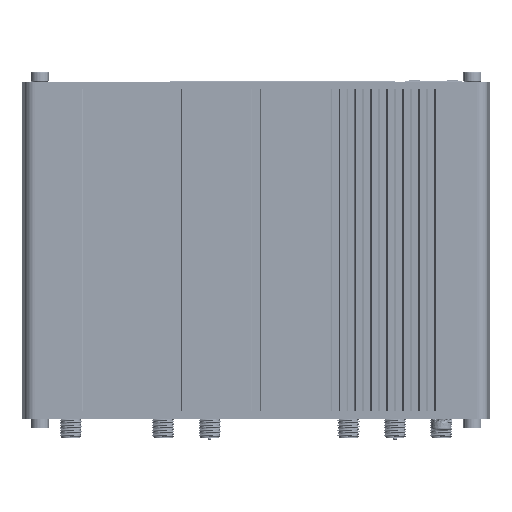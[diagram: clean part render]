
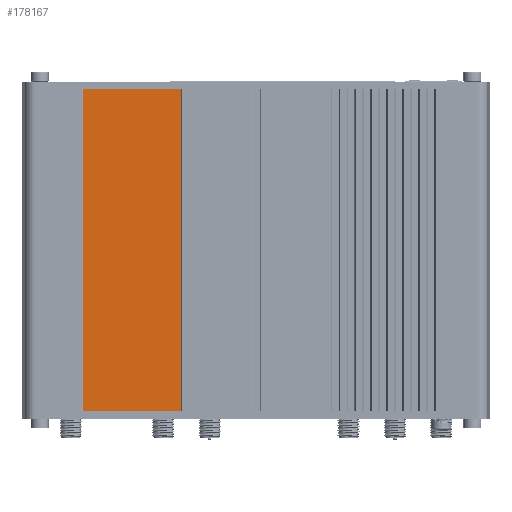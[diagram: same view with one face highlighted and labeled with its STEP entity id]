
A CAD part, front view. The second image highlights one B-rep face of the part: STEP entity #178167.
In plain terms, the highlighted planar face has unit normal (0, -1, 0).
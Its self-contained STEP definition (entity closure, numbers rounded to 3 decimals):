
#6533 = CARTESIAN_POINT ( 'NONE',  ( -114.9, 0., -91. ) ) ;
#16307 = DIRECTION ( 'NONE',  ( 0., 0., 1. ) ) ;
#23311 = ORIENTED_EDGE ( 'NONE', *, *, #491884, .T. ) ;
#26754 = DIRECTION ( 'NONE',  ( 1., 0., 0. ) ) ;
#36821 = LINE ( 'NONE', #191455, #361367 ) ;
#45109 = LINE ( 'NONE', #207642, #127604 ) ;
#56209 = LINE ( 'NONE', #359045, #154852 ) ;
#74090 = DIRECTION ( 'NONE',  ( -1., 0., 0. ) ) ;
#75092 = VERTEX_POINT ( 'NONE', #411303 ) ;
#127604 = VECTOR ( 'NONE', #215476, 1000. ) ;
#137655 = VERTEX_POINT ( 'NONE', #349989 ) ;
#147893 = AXIS2_PLACEMENT_3D ( 'NONE', #309117, #471922, #26754 ) ;
#154852 = VECTOR ( 'NONE', #16307, 1000. ) ;
#168861 = DIRECTION ( 'NONE',  ( 0., 0., -1. ) ) ;
#174049 = VERTEX_POINT ( 'NONE', #229406 ) ;
#178167 = ADVANCED_FACE ( 'NONE', ( #333456 ), #381360, .F. ) ;
#191455 = CARTESIAN_POINT ( 'NONE',  ( -115., 0., -91. ) ) ;
#207642 = CARTESIAN_POINT ( 'NONE',  ( -115., 0., 0. ) ) ;
#215476 = DIRECTION ( 'NONE',  ( -1., 0., 0. ) ) ;
#217607 = VECTOR ( 'NONE', #168861, 1000. ) ;
#229406 = CARTESIAN_POINT ( 'NONE',  ( -114.9, 0., -91. ) ) ;
#251914 = EDGE_CURVE ( 'NONE', #137655, #75092, #45109, .T. ) ;
#309117 = CARTESIAN_POINT ( 'NONE',  ( -115., 0., -91. ) ) ;
#333456 = FACE_OUTER_BOUND ( 'NONE', #501665, .T. ) ;
#349989 = CARTESIAN_POINT ( 'NONE',  ( -87.1, 0., 0. ) ) ;
#359045 = CARTESIAN_POINT ( 'NONE',  ( -87.1, 0., 0. ) ) ;
#361367 = VECTOR ( 'NONE', #74090, 1000. ) ;
#370993 = ORIENTED_EDGE ( 'NONE', *, *, #508412, .F. ) ;
#371519 = CARTESIAN_POINT ( 'NONE',  ( -87.1, 0., -91. ) ) ;
#381360 = PLANE ( 'NONE',  #147893 ) ;
#382126 = LINE ( 'NONE', #6533, #217607 ) ;
#411303 = CARTESIAN_POINT ( 'NONE',  ( -114.9, 0., 0. ) ) ;
#471922 = DIRECTION ( 'NONE',  ( 0., 1., 0. ) ) ;
#477079 = ORIENTED_EDGE ( 'NONE', *, *, #251914, .T. ) ;
#478776 = EDGE_CURVE ( 'NONE', #75092, #174049, #382126, .T. ) ;
#483990 = ORIENTED_EDGE ( 'NONE', *, *, #478776, .T. ) ;
#491884 = EDGE_CURVE ( 'NONE', #492282, #137655, #56209, .T. ) ;
#492282 = VERTEX_POINT ( 'NONE', #371519 ) ;
#501665 = EDGE_LOOP ( 'NONE', ( #370993, #23311, #477079, #483990 ) ) ;
#508412 = EDGE_CURVE ( 'NONE', #492282, #174049, #36821, .T. ) ;
